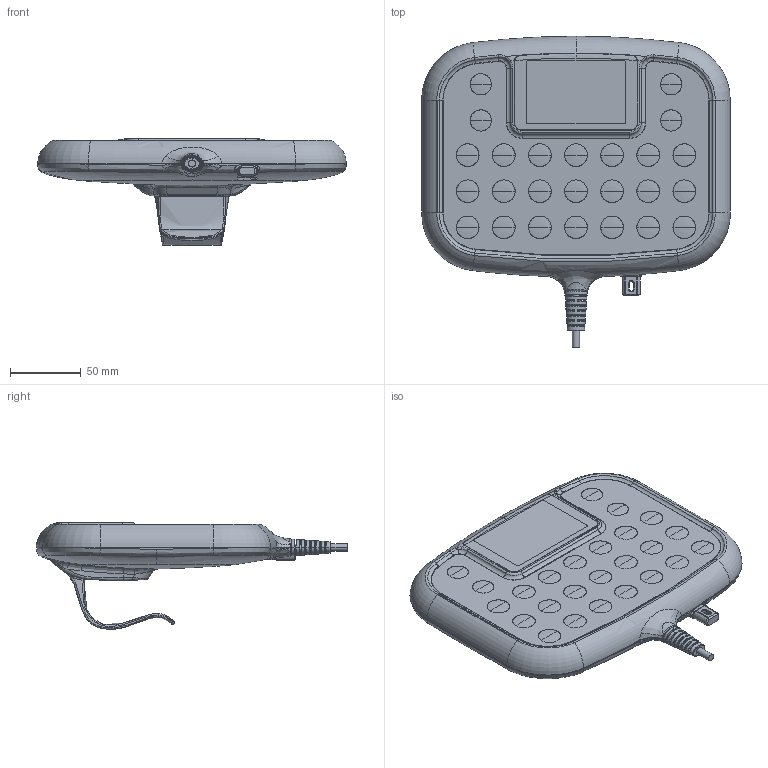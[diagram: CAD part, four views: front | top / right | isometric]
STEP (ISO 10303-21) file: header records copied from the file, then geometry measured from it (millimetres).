
FILE_DESCRIPTION (( 'STEP AP203' ), '1' );
FILE_NAME ('TNP-005.STEP', '2012-02-13T09:39:17', ( '' ), ( '' ), 'SwSTEP 2.0', 'SolidWorks 2010', '' );
FILE_SCHEMA (( 'CONFIG_CONTROL_DESIGN' ));
Products named in the file (10): TNP-005; Nurse Panel-Top-housing-A-1; Nurse Panel-KEY; Nurse Panel-Display-Print; 40510-061-SR-A; Nurse Panel-display-LCD; Nurse Panel-Panel; KEY; 32905-076-TNP1掛勾-A; Nurse Panel-Back-B
Assembly tree (9 placements, depth 2):
  TNP-005
    40510-061-SR-A
    KEY
    32905-076-TNP1掛勾-A
    Nurse Panel-Panel
    Nurse Panel-display-LCD
    Nurse Panel-Back-B
    Nurse Panel-KEY
    Nurse Panel-Top-housing-A-1
    Nurse Panel-Display-Print
Bounding box: 218 x 219.99 x 75.24 mm (x, y, z)
Volume: 932603.8 mm3; surface area: 222413.2 mm2
Topology: 34 solids, 34 shells, 837 faces, 2002 edges, 1189 vertices
Faces by surface type: bspline 338, cylinder 271, plane 148, torus 50, cone 30
Entity records: 76343 total; most frequent: CARTESIAN_POINT 58300, ORIENTED_EDGE 3888, DIRECTION 2905, EDGE_CURVE 1944, AXIS2_PLACEMENT_3D 1204, VERTEX_POINT 1189, EDGE_LOOP 905, FACE_OUTER_BOUND 837
